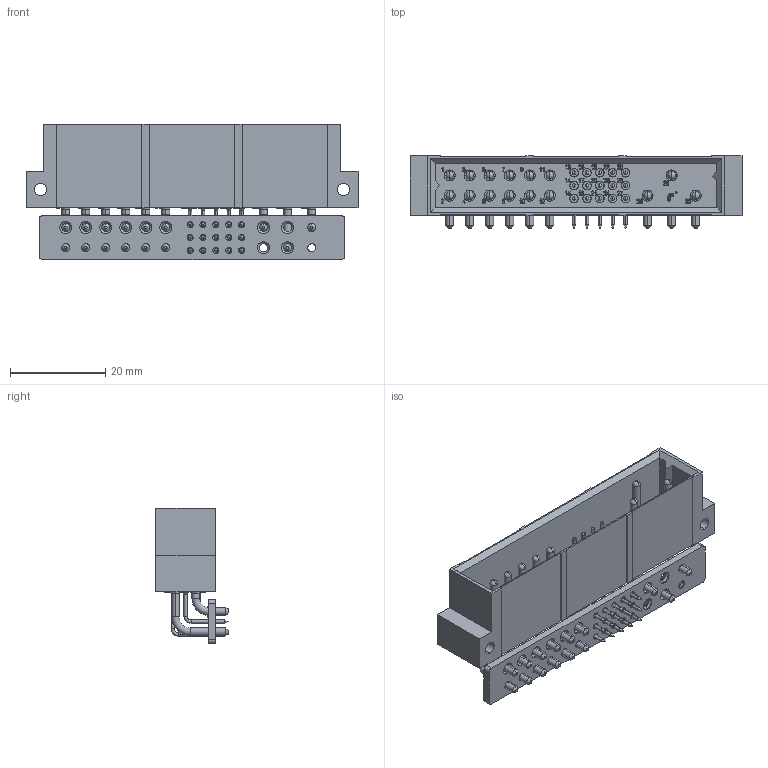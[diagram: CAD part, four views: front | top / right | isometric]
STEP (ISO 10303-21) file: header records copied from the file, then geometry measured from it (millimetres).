
FILE_DESCRIPTION (( 'STEP AP214' ), '1' );
FILE_NAME ('PCIM30W15M400A1.STEP', '2018-11-19T07:15:44', ( '' ), ( '' ), 'SwSTEP 2.0', 'SolidWorks 2017', '' );
FILE_SCHEMA (( 'AUTOMOTIVE_DESIGN' ));
Length unit declared in the file: millimetre
Products named in the file (1): PCIM30W15M400A1
Bounding box: 69.66 x 15.22 x 28.39 mm (x, y, z)
Volume: 8132.4 mm3; surface area: 10512.9 mm2
Topology: 2 solids, 2 shells, 3961 faces, 10650 edges, 6916 vertices
Faces by surface type: plane 2225, bspline 730, cylinder 624, cone 262, torus 60, sphere 60
Entity records: 164237 total; most frequent: CARTESIAN_POINT 67830, ORIENTED_EDGE 21180, DIRECTION 18168, EDGE_CURVE 10590, VERTEX_POINT 6916, LINE 6556, VECTOR 6556, AXIS2_PLACEMENT_3D 5806
